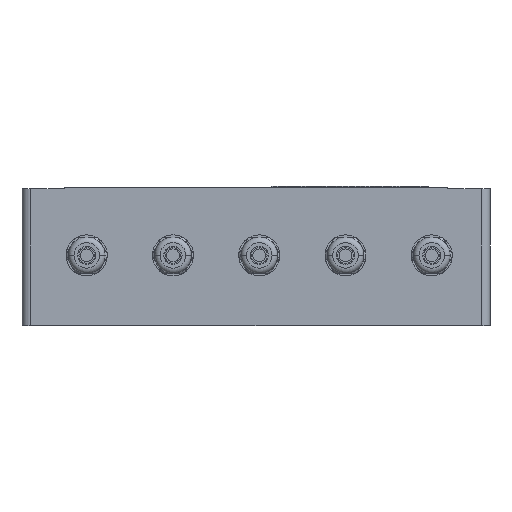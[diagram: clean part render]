
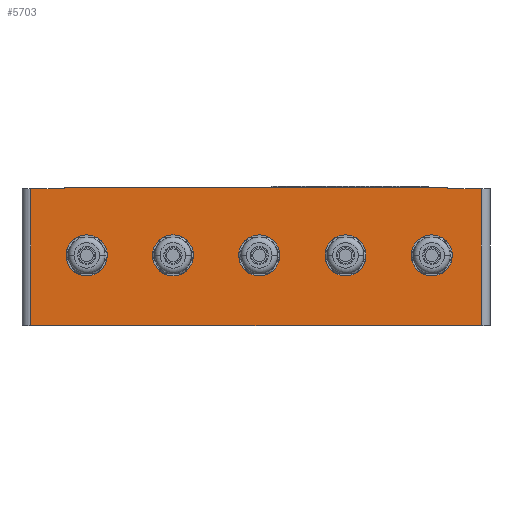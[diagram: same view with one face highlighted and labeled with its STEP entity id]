
A CAD part, front view. The second image highlights one B-rep face of the part: STEP entity #5703.
In plain terms, the highlighted planar face has unit normal (0, -1, 0).
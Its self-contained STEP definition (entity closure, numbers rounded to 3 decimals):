
#15=DIRECTION('',(1.,0.,0.));
#16=VECTOR('',#15,209.);
#17=CARTESIAN_POINT('',(-104.5,-92.5,-32.));
#18=LINE('',#17,#16);
#73=CARTESIAN_POINT('',(-78.5,-92.5,0.54));
#74=DIRECTION('',(0.,1.,0.));
#75=DIRECTION('',(-1.,0.,0.));
#76=AXIS2_PLACEMENT_3D('',#73,#74,#75);
#78=CARTESIAN_POINT('',(-78.5,-92.5,0.54));
#79=DIRECTION('',(0.,1.,0.));
#80=DIRECTION('',(1.,0.,0.));
#81=AXIS2_PLACEMENT_3D('',#78,#79,#80);
#83=CARTESIAN_POINT('',(-38.5,-92.5,0.54));
#84=DIRECTION('',(0.,1.,0.));
#85=DIRECTION('',(-1.,0.,0.));
#86=AXIS2_PLACEMENT_3D('',#83,#84,#85);
#88=CARTESIAN_POINT('',(-38.5,-92.5,0.54));
#89=DIRECTION('',(0.,1.,0.));
#90=DIRECTION('',(1.,0.,0.));
#91=AXIS2_PLACEMENT_3D('',#88,#89,#90);
#93=CARTESIAN_POINT('',(1.5,-92.5,0.54));
#94=DIRECTION('',(0.,1.,0.));
#95=DIRECTION('',(-1.,0.,0.));
#96=AXIS2_PLACEMENT_3D('',#93,#94,#95);
#98=CARTESIAN_POINT('',(1.5,-92.5,0.54));
#99=DIRECTION('',(0.,1.,0.));
#100=DIRECTION('',(1.,0.,0.));
#101=AXIS2_PLACEMENT_3D('',#98,#99,#100);
#103=CARTESIAN_POINT('',(41.5,-92.5,0.54));
#104=DIRECTION('',(0.,1.,0.));
#105=DIRECTION('',(-1.,0.,0.));
#106=AXIS2_PLACEMENT_3D('',#103,#104,#105);
#108=CARTESIAN_POINT('',(41.5,-92.5,0.54));
#109=DIRECTION('',(0.,1.,0.));
#110=DIRECTION('',(1.,0.,0.));
#111=AXIS2_PLACEMENT_3D('',#108,#109,#110);
#113=CARTESIAN_POINT('',(81.5,-92.5,0.54));
#114=DIRECTION('',(0.,1.,0.));
#115=DIRECTION('',(-1.,0.,0.));
#116=AXIS2_PLACEMENT_3D('',#113,#114,#115);
#118=CARTESIAN_POINT('',(81.5,-92.5,0.54));
#119=DIRECTION('',(0.,1.,0.));
#120=DIRECTION('',(1.,0.,0.));
#121=AXIS2_PLACEMENT_3D('',#118,#119,#120);
#123=DIRECTION('',(0.,0.,-1.));
#124=VECTOR('',#123,63.5);
#125=CARTESIAN_POINT('',(104.5,-92.5,31.5));
#126=LINE('',#125,#124);
#127=DIRECTION('',(0.,0.,-1.));
#128=VECTOR('',#127,63.5);
#129=CARTESIAN_POINT('',(-104.5,-92.5,31.5));
#130=LINE('',#129,#128);
#131=DIRECTION('',(1.,0.,0.));
#132=VECTOR('',#131,15.639);
#133=CARTESIAN_POINT('',(-104.5,-92.5,31.5));
#134=LINE('',#133,#132);
#135=DIRECTION('',(0.,0.,-1.));
#136=VECTOR('',#135,0.5);
#137=CARTESIAN_POINT('',(-88.861,-92.5,32.));
#138=LINE('',#137,#136);
#139=DIRECTION('',(0.,0.,-1.));
#140=VECTOR('',#139,0.5);
#141=CARTESIAN_POINT('',(88.861,-92.5,32.));
#142=LINE('',#141,#140);
#143=DIRECTION('',(1.,0.,0.));
#144=VECTOR('',#143,15.639);
#145=CARTESIAN_POINT('',(88.861,-92.5,31.5));
#146=LINE('',#145,#144);
#289=DIRECTION('',(1.,0.,0.));
#290=VECTOR('',#289,177.723);
#291=CARTESIAN_POINT('',(-88.861,-92.5,32.));
#292=LINE('',#291,#290);
#4173=CARTESIAN_POINT('',(-84.5,-92.5,0.54));
#4174=CARTESIAN_POINT('',(-72.5,-92.5,0.54));
#4175=VERTEX_POINT('',#4173);
#4176=VERTEX_POINT('',#4174);
#4181=CARTESIAN_POINT('',(-44.5,-92.5,0.54));
#4182=CARTESIAN_POINT('',(-32.5,-92.5,0.54));
#4183=VERTEX_POINT('',#4181);
#4184=VERTEX_POINT('',#4182);
#4189=CARTESIAN_POINT('',(-4.5,-92.5,0.54));
#4190=CARTESIAN_POINT('',(7.5,-92.5,0.54));
#4191=VERTEX_POINT('',#4189);
#4192=VERTEX_POINT('',#4190);
#4197=CARTESIAN_POINT('',(35.5,-92.5,0.54));
#4198=CARTESIAN_POINT('',(47.5,-92.5,0.54));
#4199=VERTEX_POINT('',#4197);
#4200=VERTEX_POINT('',#4198);
#4205=CARTESIAN_POINT('',(75.5,-92.5,0.54));
#4206=CARTESIAN_POINT('',(87.5,-92.5,0.54));
#4207=VERTEX_POINT('',#4205);
#4208=VERTEX_POINT('',#4206);
#4209=CARTESIAN_POINT('',(-88.861,-92.5,32.));
#4211=VERTEX_POINT('',#4209);
#4213=CARTESIAN_POINT('',(88.861,-92.5,32.));
#4215=VERTEX_POINT('',#4213);
#4217=CARTESIAN_POINT('',(-88.861,-92.5,31.5));
#4218=VERTEX_POINT('',#4217);
#4219=CARTESIAN_POINT('',(88.861,-92.5,31.5));
#4220=VERTEX_POINT('',#4219);
#4274=CARTESIAN_POINT('',(104.5,-92.5,-32.));
#4276=VERTEX_POINT('',#4274);
#4277=CARTESIAN_POINT('',(104.5,-92.5,31.5));
#4278=VERTEX_POINT('',#4277);
#4281=CARTESIAN_POINT('',(-104.5,-92.5,-32.));
#4283=VERTEX_POINT('',#4281);
#4287=CARTESIAN_POINT('',(-104.5,-92.5,31.5));
#4288=VERTEX_POINT('',#4287);
#5652=CARTESIAN_POINT('',(-108.5,-92.5,-32.));
#5653=DIRECTION('',(0.,-1.,0.));
#5654=DIRECTION('',(1.,0.,0.));
#5655=AXIS2_PLACEMENT_3D('',#5652,#5653,#5654);
#5656=PLANE('',#5655);
#5657=ORIENTED_EDGE('',*,*,#5644,.T.);
#5658=ORIENTED_EDGE('',*,*,#5560,.F.);
#5660=ORIENTED_EDGE('',*,*,#5659,.F.);
#5662=ORIENTED_EDGE('',*,*,#5661,.T.);
#5664=ORIENTED_EDGE('',*,*,#5663,.F.);
#5666=ORIENTED_EDGE('',*,*,#5665,.T.);
#5668=ORIENTED_EDGE('',*,*,#5667,.T.);
#5670=ORIENTED_EDGE('',*,*,#5669,.T.);
#5671=EDGE_LOOP('',(#5657,#5658,#5660,#5662,#5664,#5666,#5668,#5670));
#5672=FACE_OUTER_BOUND('',#5671,.F.);
#5674=ORIENTED_EDGE('',*,*,#5673,.F.);
#5676=ORIENTED_EDGE('',*,*,#5675,.F.);
#5677=EDGE_LOOP('',(#5674,#5676));
#5678=FACE_BOUND('',#5677,.F.);
#5680=ORIENTED_EDGE('',*,*,#5679,.F.);
#5682=ORIENTED_EDGE('',*,*,#5681,.F.);
#5683=EDGE_LOOP('',(#5680,#5682));
#5684=FACE_BOUND('',#5683,.F.);
#5686=ORIENTED_EDGE('',*,*,#5685,.F.);
#5688=ORIENTED_EDGE('',*,*,#5687,.F.);
#5689=EDGE_LOOP('',(#5686,#5688));
#5690=FACE_BOUND('',#5689,.F.);
#5692=ORIENTED_EDGE('',*,*,#5691,.F.);
#5694=ORIENTED_EDGE('',*,*,#5693,.F.);
#5695=EDGE_LOOP('',(#5692,#5694));
#5696=FACE_BOUND('',#5695,.F.);
#5698=ORIENTED_EDGE('',*,*,#5697,.F.);
#5700=ORIENTED_EDGE('',*,*,#5699,.F.);
#5701=EDGE_LOOP('',(#5698,#5700));
#5702=FACE_BOUND('',#5701,.F.);
#5703=ADVANCED_FACE('',(#5672,#5678,#5684,#5690,#5696,#5702),#5656,.T.);
#77=CIRCLE('',#76,6.);
#82=CIRCLE('',#81,6.);
#87=CIRCLE('',#86,6.);
#92=CIRCLE('',#91,6.);
#97=CIRCLE('',#96,6.);
#102=CIRCLE('',#101,6.);
#107=CIRCLE('',#106,6.);
#112=CIRCLE('',#111,6.);
#117=CIRCLE('',#116,6.);
#122=CIRCLE('',#121,6.);
#5560=EDGE_CURVE('',#4283,#4276,#18,.T.);
#5644=EDGE_CURVE('',#4278,#4276,#126,.T.);
#5659=EDGE_CURVE('',#4288,#4283,#130,.T.);
#5661=EDGE_CURVE('',#4288,#4218,#134,.T.);
#5663=EDGE_CURVE('',#4211,#4218,#138,.T.);
#5665=EDGE_CURVE('',#4211,#4215,#292,.T.);
#5667=EDGE_CURVE('',#4215,#4220,#142,.T.);
#5669=EDGE_CURVE('',#4220,#4278,#146,.T.);
#5673=EDGE_CURVE('',#4183,#4184,#87,.T.);
#5675=EDGE_CURVE('',#4184,#4183,#92,.T.);
#5679=EDGE_CURVE('',#4191,#4192,#97,.T.);
#5681=EDGE_CURVE('',#4192,#4191,#102,.T.);
#5685=EDGE_CURVE('',#4199,#4200,#107,.T.);
#5687=EDGE_CURVE('',#4200,#4199,#112,.T.);
#5691=EDGE_CURVE('',#4207,#4208,#117,.T.);
#5693=EDGE_CURVE('',#4208,#4207,#122,.T.);
#5697=EDGE_CURVE('',#4175,#4176,#77,.T.);
#5699=EDGE_CURVE('',#4176,#4175,#82,.T.);
